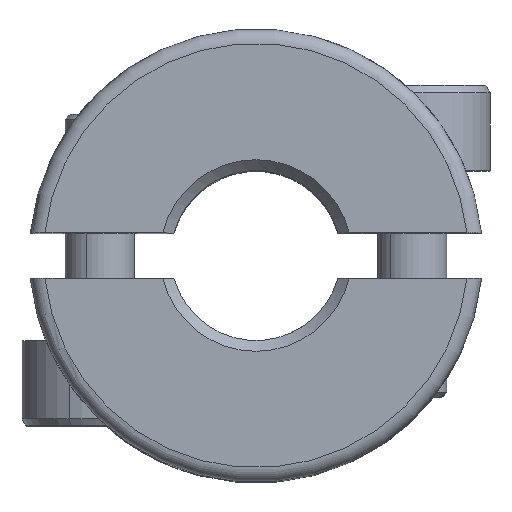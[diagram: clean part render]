
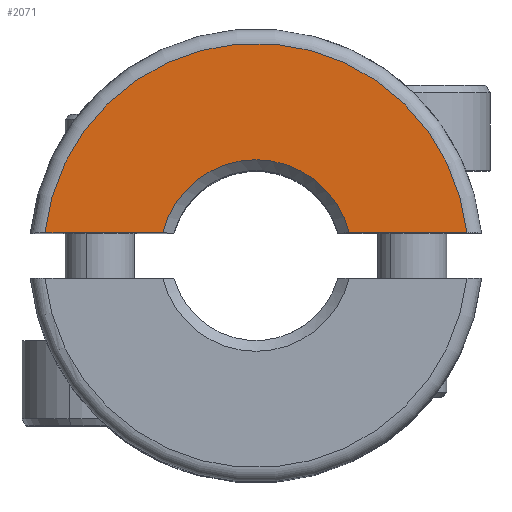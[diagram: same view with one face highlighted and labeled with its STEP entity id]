
A CAD part, top view. The second image highlights one B-rep face of the part: STEP entity #2071.
In plain terms, the highlighted planar face has unit normal (0, 0, 1).
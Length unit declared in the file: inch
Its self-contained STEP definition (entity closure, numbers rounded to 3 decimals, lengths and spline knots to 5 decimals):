
#219 = CARTESIAN_POINT ( 'NONE',  ( 0., 0., 0.38553 ) ) ;
#232 = EDGE_CURVE ( 'NONE', #2024, #1572, #1088, .T. ) ;
#247 = VERTEX_POINT ( 'NONE', #1899 ) ;
#260 = CARTESIAN_POINT ( 'NONE',  ( 1.05299, 0.0313, 0.38553 ) ) ;
#307 = EDGE_LOOP ( 'NONE', ( #2151, #918, #1674, #2049 ) ) ;
#353 = DIRECTION ( 'NONE',  ( 1., 0., 0. ) ) ;
#363 = DIRECTION ( 'NONE',  ( 1., 0., 0. ) ) ;
#387 = DIRECTION ( 'NONE',  ( 0., 0., 1. ) ) ;
#460 = EDGE_CURVE ( 'NONE', #247, #1572, #733, .T. ) ;
#474 = VERTEX_POINT ( 'NONE', #1414 ) ;
#515 = CARTESIAN_POINT ( 'NONE',  ( -0.29322, 0.0313, 0.38553 ) ) ;
#569 = AXIS2_PLACEMENT_3D ( 'NONE', #219, #387, #363 ) ;
#659 = CARTESIAN_POINT ( 'NONE',  ( 0., 0., 0.38553 ) ) ;
#733 = CIRCLE ( 'NONE', #1522, 0.29488 ) ;
#784 = DIRECTION ( 'NONE',  ( -1., 0., 0. ) ) ;
#789 = DIRECTION ( 'NONE',  ( -1., 0., 0. ) ) ;
#814 = EDGE_CURVE ( 'NONE', #247, #474, #986, .T. ) ;
#880 = PLANE ( 'NONE',  #569 ) ;
#918 = ORIENTED_EDGE ( 'NONE', *, *, #460, .T. ) ;
#968 = CARTESIAN_POINT ( 'NONE',  ( 1.05299, 0.0313, 0.38553 ) ) ;
#986 = LINE ( 'NONE', #260, #1612 ) ;
#997 = DIRECTION ( 'NONE',  ( 0., 0., -1. ) ) ;
#1088 = LINE ( 'NONE', #968, #1215 ) ;
#1215 = VECTOR ( 'NONE', #789, 39.37008 ) ;
#1222 = CARTESIAN_POINT ( 'NONE',  ( 0., 0., 0.38553 ) ) ;
#1368 = CARTESIAN_POINT ( 'NONE',  ( -0.12938, 0.0313, 0.38553 ) ) ;
#1414 = CARTESIAN_POINT ( 'NONE',  ( 0.12938, 0.0313, 0.38553 ) ) ;
#1428 = AXIS2_PLACEMENT_3D ( 'NONE', #659, #997, #1690 ) ;
#1522 = AXIS2_PLACEMENT_3D ( 'NONE', #1222, #1753, #353 ) ;
#1572 = VERTEX_POINT ( 'NONE', #515 ) ;
#1612 = VECTOR ( 'NONE', #784, 39.37008 ) ;
#1674 = ORIENTED_EDGE ( 'NONE', *, *, #232, .F. ) ;
#1690 = DIRECTION ( 'NONE',  ( 1., 0., 0. ) ) ;
#1747 = EDGE_CURVE ( 'NONE', #2024, #474, #2008, .T. ) ;
#1753 = DIRECTION ( 'NONE',  ( 0., 0., 1. ) ) ;
#1833 = FACE_OUTER_BOUND ( 'NONE', #307, .T. ) ;
#1899 = CARTESIAN_POINT ( 'NONE',  ( 0.29322, 0.0313, 0.38553 ) ) ;
#2008 = CIRCLE ( 'NONE', #1428, 0.13311 ) ;
#2024 = VERTEX_POINT ( 'NONE', #1368 ) ;
#2049 = ORIENTED_EDGE ( 'NONE', *, *, #1747, .T. ) ;
#2071 = ADVANCED_FACE ( 'NONE', ( #1833 ), #880, .T. ) ;
#2151 = ORIENTED_EDGE ( 'NONE', *, *, #814, .F. ) ;
